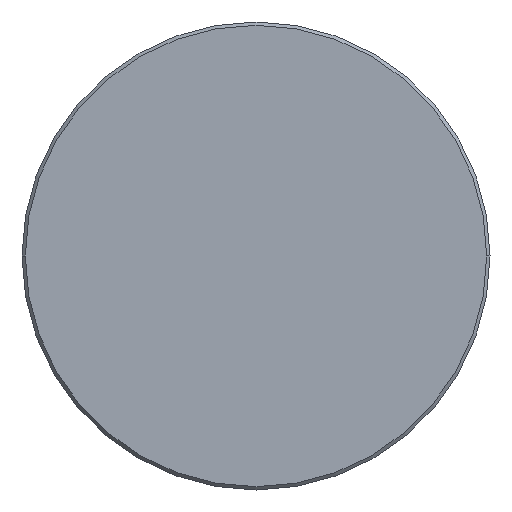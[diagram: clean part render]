
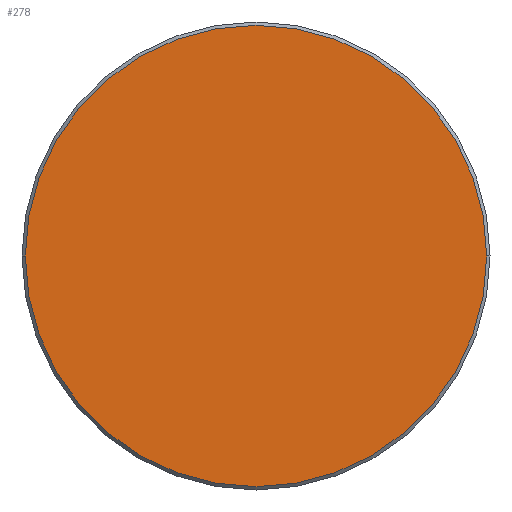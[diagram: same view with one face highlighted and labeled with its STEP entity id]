
A CAD part, left-side view. The second image highlights one B-rep face of the part: STEP entity #278.
In plain terms, the highlighted planar face has unit normal (-1, 0, 0).
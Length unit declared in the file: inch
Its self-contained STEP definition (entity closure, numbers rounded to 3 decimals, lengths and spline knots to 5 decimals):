
#54 = DIRECTION ( 'NONE',  ( -1., 0., 0. ) ) ;
#55 = DIRECTION ( 'NONE',  ( 0., -1., 0. ) ) ;
#61 = EDGE_CURVE ( 'NONE', #362, #181, #250, .T. ) ;
#76 = AXIS2_PLACEMENT_3D ( 'NONE', #174, #54, #55 ) ;
#113 = PLANE ( 'NONE',  #76 ) ;
#118 = CIRCLE ( 'NONE', #319, 0.27725 ) ;
#131 = EDGE_CURVE ( 'NONE', #181, #362, #118, .T. ) ;
#165 = DIRECTION ( 'NONE',  ( -1., 0., 0. ) ) ;
#168 = AXIS2_PLACEMENT_3D ( 'NONE', #264, #234, #341 ) ;
#174 = CARTESIAN_POINT ( 'NONE',  ( 0., 0., 0. ) ) ;
#181 = VERTEX_POINT ( 'NONE', #267 ) ;
#201 = DIRECTION ( 'NONE',  ( 0., -1., 0. ) ) ;
#234 = DIRECTION ( 'NONE',  ( -1., 0., 0. ) ) ;
#240 = ORIENTED_EDGE ( 'NONE', *, *, #131, .T. ) ;
#250 = CIRCLE ( 'NONE', #168, 0.27725 ) ;
#264 = CARTESIAN_POINT ( 'NONE',  ( 0., 0., 0. ) ) ;
#267 = CARTESIAN_POINT ( 'NONE',  ( 0., -0.27725, 0. ) ) ;
#277 = CARTESIAN_POINT ( 'NONE',  ( 0., 0.27725, 0. ) ) ;
#278 = ADVANCED_FACE ( 'NONE', ( #365 ), #113, .T. ) ;
#319 = AXIS2_PLACEMENT_3D ( 'NONE', #347, #165, #201 ) ;
#324 = EDGE_LOOP ( 'NONE', ( #364, #240 ) ) ;
#341 = DIRECTION ( 'NONE',  ( 0., -1., 0. ) ) ;
#347 = CARTESIAN_POINT ( 'NONE',  ( 0., 0., 0. ) ) ;
#362 = VERTEX_POINT ( 'NONE', #277 ) ;
#364 = ORIENTED_EDGE ( 'NONE', *, *, #61, .T. ) ;
#365 = FACE_OUTER_BOUND ( 'NONE', #324, .T. ) ;
